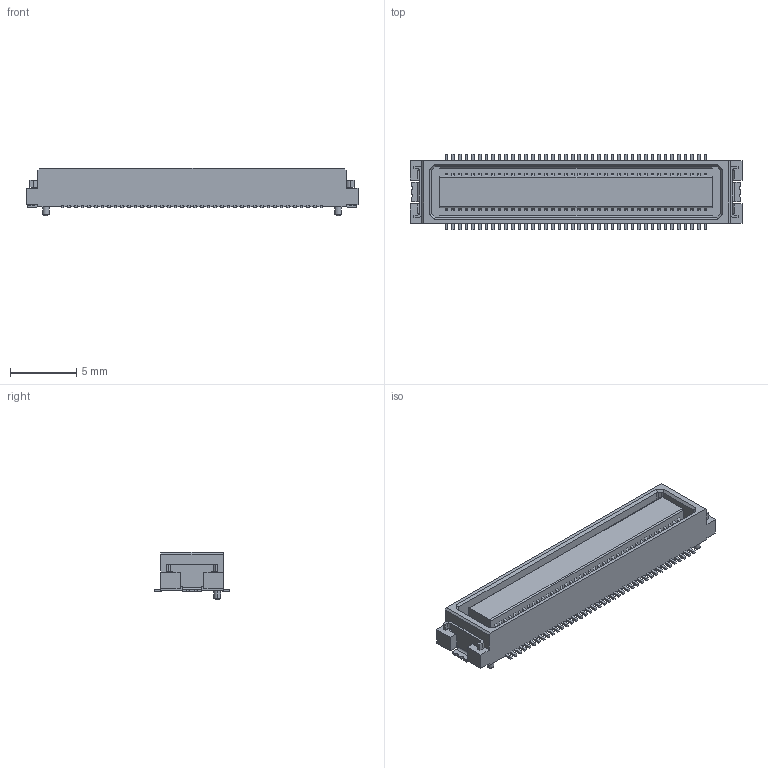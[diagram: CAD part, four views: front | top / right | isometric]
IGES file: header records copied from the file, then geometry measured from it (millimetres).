
Start section: Elysium IGES Interface
Global section: file name: T:\3D_USER\tetsuya_yamasaki\DF17\DF17-DS\DF17(3.0H)-DS\DF17(3.0H)-DS\DF17(3_0H)-80DS-0_5V.igs; native system: SolidDesigner 15.00A  14-Mar-2007; preprocessor: OneSpace IGES_3D V2.2; author: Unknown; organization: Unknown; date: 20080310.122815; units: millimetre
Bounding box: 25 x 5.7 x 3.6 mm (x, y, z)
Volume: 240.9 mm3; surface area: 704 mm2
Topology: 1 solids, 1 shells, 1356 faces, 4046 edges, 2696 vertices
Faces by surface type: bspline 1356
